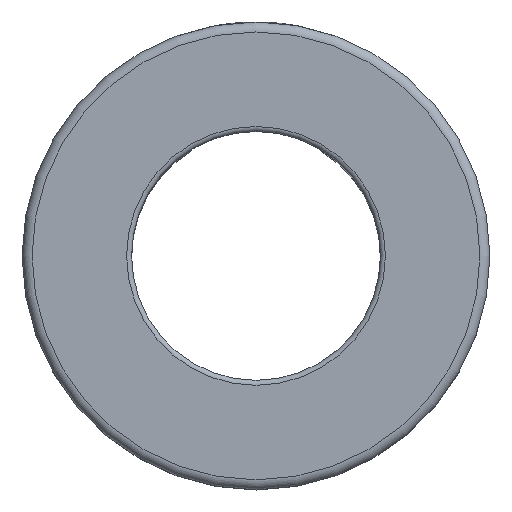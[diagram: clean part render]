
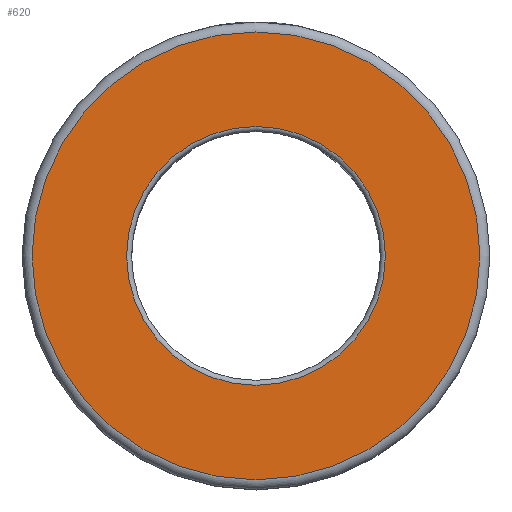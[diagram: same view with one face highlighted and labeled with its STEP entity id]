
A CAD part, top view. The second image highlights one B-rep face of the part: STEP entity #620.
In plain terms, the highlighted planar face has unit normal (0, 0, 1).
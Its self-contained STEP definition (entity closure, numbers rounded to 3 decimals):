
#14=FACE_BOUND('',#155,.T.);
#38=CIRCLE('',#686,13.);
#40=CIRCLE('',#689,22.5);
#120=FACE_OUTER_BOUND('',#154,.T.);
#154=EDGE_LOOP('',(#479));
#155=EDGE_LOOP('',(#480));
#292=VERTEX_POINT('',#1195);
#293=VERTEX_POINT('',#1199);
#363=EDGE_CURVE('',#292,#292,#38,.T.);
#365=EDGE_CURVE('',#293,#293,#40,.T.);
#479=ORIENTED_EDGE('',*,*,#365,.F.);
#480=ORIENTED_EDGE('',*,*,#363,.F.);
#597=PLANE('',#688);
#620=ADVANCED_FACE('',(#120,#14),#597,.T.);
#686=AXIS2_PLACEMENT_3D('',#1196,#793,#794);
#688=AXIS2_PLACEMENT_3D('',#1198,#797,#798);
#689=AXIS2_PLACEMENT_3D('',#1200,#799,#800);
#793=DIRECTION('center_axis',(0.,0.,1.));
#794=DIRECTION('ref_axis',(0.,1.,0.));
#797=DIRECTION('center_axis',(0.,0.,1.));
#798=DIRECTION('ref_axis',(1.,0.,0.));
#799=DIRECTION('center_axis',(0.,0.,-1.));
#800=DIRECTION('ref_axis',(0.,1.,0.));
#1195=CARTESIAN_POINT('',(13.,0.,0.));
#1196=CARTESIAN_POINT('Origin',(0.,0.,0.));
#1198=CARTESIAN_POINT('Origin',(0.,-23.5,0.));
#1199=CARTESIAN_POINT('',(22.5,0.,0.));
#1200=CARTESIAN_POINT('Origin',(0.,0.,0.));
